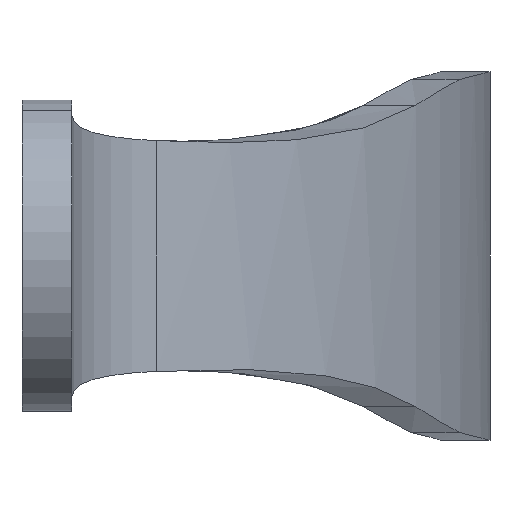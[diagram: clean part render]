
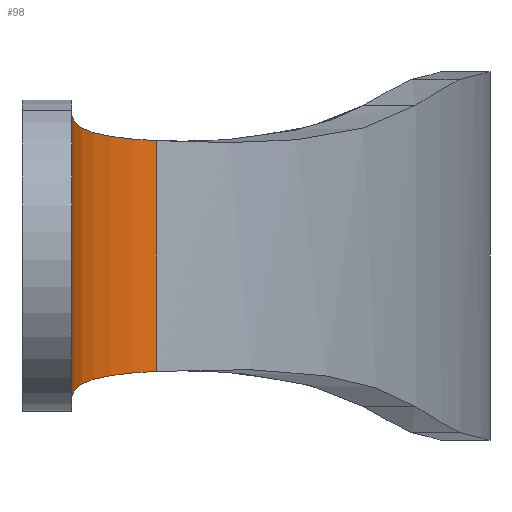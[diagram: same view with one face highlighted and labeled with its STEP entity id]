
A CAD part, left-side view. The second image highlights one B-rep face of the part: STEP entity #98.
In plain terms, the highlighted cylindrical face has radius 15 mm (diameter 30 mm), a partial arc.
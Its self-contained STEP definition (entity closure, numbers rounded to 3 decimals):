
#98 = ADVANCED_FACE( '', ( #154 ), #155, .F. );
#154 = FACE_OUTER_BOUND( '', #216, .T. );
#155 = CYLINDRICAL_SURFACE( '', #217, 15. );
#216 = EDGE_LOOP( '', ( #429, #430, #431, #432 ) );
#217 = AXIS2_PLACEMENT_3D( '', #433, #434, #435 );
#429 = ORIENTED_EDGE( '', *, *, #551, .T. );
#430 = ORIENTED_EDGE( '', *, *, #559, .F. );
#431 = ORIENTED_EDGE( '', *, *, #535, .T. );
#432 = ORIENTED_EDGE( '', *, *, #560, .T. );
#433 = CARTESIAN_POINT( '', ( 4.929, -18.5, 13. ) );
#434 = DIRECTION( '', ( 0., 0., 1. ) );
#435 = DIRECTION( '', ( 0., 1., 0. ) );
#535 = EDGE_CURVE( '', #650, #660, #662, .T. );
#551 = EDGE_CURVE( '', #687, #685, #688, .T. );
#559 = EDGE_CURVE( '', #650, #685, #698, .T. );
#560 = EDGE_CURVE( '', #660, #687, #699, .T. );
#650 = VERTEX_POINT( '', #972 );
#660 = VERTEX_POINT( '', #1034 );
#662 = B_SPLINE_CURVE_WITH_KNOTS( '', 3, ( #1036, #1037, #1038, #1039, #1040, #1041, #1042, #1043, #1044, #1045, #1046, #1047, #1048, #1049, #1050, #1051, #1052, #1053 ), .UNSPECIFIED., .F., .F., ( 4, 2, 2, 2, 2, 2, 2, 2, 4 ), ( 38.078, 39.347, 41.12, 42.893, 44.708, 46.524, 48.34, 50.155, 51.743 ), .UNSPECIFIED. );
#685 = VERTEX_POINT( '', #1174 );
#687 = VERTEX_POINT( '', #1193 );
#688 = B_SPLINE_CURVE_WITH_KNOTS( '', 3, ( #1194, #1195, #1196, #1197, #1198, #1199, #1200, #1201, #1202, #1203, #1204, #1205, #1206, #1207, #1208, #1209, #1210, #1211 ), .UNSPECIFIED., .F., .F., ( 4, 2, 2, 2, 2, 2, 2, 2, 4 ), ( 5.675, 7.262, 9.078, 10.894, 12.709, 14.525, 16.298, 18.071, 19.34 ), .UNSPECIFIED. );
#698 = LINE( '', #1258, #1259 );
#699 = LINE( '', #1260, #1261 );
#972 = CARTESIAN_POINT( '', ( 16.92, -9.488, 8.135 ) );
#1034 = CARTESIAN_POINT( '', ( 4.929, -3.5, 10.007 ) );
#1036 = CARTESIAN_POINT( '', ( 16.92, -9.488, 8.135 ) );
#1037 = CARTESIAN_POINT( '', ( 16.656, -9.138, 8.151 ) );
#1038 = CARTESIAN_POINT( '', ( 16.378, -8.799, 8.171 ) );
#1039 = CARTESIAN_POINT( '', ( 15.679, -8.021, 8.224 ) );
#1040 = CARTESIAN_POINT( '', ( 15.246, -7.595, 8.261 ) );
#1041 = CARTESIAN_POINT( '', ( 14.34, -6.805, 8.348 ) );
#1042 = CARTESIAN_POINT( '', ( 13.868, -6.44, 8.398 ) );
#1043 = CARTESIAN_POINT( '', ( 12.884, -5.769, 8.514 ) );
#1044 = CARTESIAN_POINT( '', ( 12.361, -5.456, 8.581 ) );
#1045 = CARTESIAN_POINT( '', ( 11.274, -4.894, 8.735 ) );
#1046 = CARTESIAN_POINT( '', ( 10.71, -4.645, 8.822 ) );
#1047 = CARTESIAN_POINT( '', ( 9.553, -4.217, 9.016 ) );
#1048 = CARTESIAN_POINT( '', ( 8.96, -4.039, 9.123 ) );
#1049 = CARTESIAN_POINT( '', ( 7.757, -3.756, 9.359 ) );
#1050 = CARTESIAN_POINT( '', ( 7.148, -3.652, 9.487 ) );
#1051 = CARTESIAN_POINT( '', ( 6.001, -3.529, 9.745 ) );
#1052 = CARTESIAN_POINT( '', ( 5.464, -3.5, 9.872 ) );
#1053 = CARTESIAN_POINT( '', ( 4.929, -3.5, 10.007 ) );
#1174 = CARTESIAN_POINT( '', ( 16.92, -9.488, -8.135 ) );
#1193 = CARTESIAN_POINT( '', ( 4.929, -3.5, -10.007 ) );
#1194 = CARTESIAN_POINT( '', ( 4.929, -3.5, -10.007 ) );
#1195 = CARTESIAN_POINT( '', ( 5.464, -3.5, -9.872 ) );
#1196 = CARTESIAN_POINT( '', ( 6.001, -3.529, -9.745 ) );
#1197 = CARTESIAN_POINT( '', ( 7.148, -3.652, -9.487 ) );
#1198 = CARTESIAN_POINT( '', ( 7.757, -3.756, -9.359 ) );
#1199 = CARTESIAN_POINT( '', ( 8.96, -4.039, -9.123 ) );
#1200 = CARTESIAN_POINT( '', ( 9.553, -4.217, -9.016 ) );
#1201 = CARTESIAN_POINT( '', ( 10.71, -4.645, -8.822 ) );
#1202 = CARTESIAN_POINT( '', ( 11.274, -4.894, -8.735 ) );
#1203 = CARTESIAN_POINT( '', ( 12.361, -5.456, -8.581 ) );
#1204 = CARTESIAN_POINT( '', ( 12.884, -5.769, -8.514 ) );
#1205 = CARTESIAN_POINT( '', ( 13.868, -6.44, -8.398 ) );
#1206 = CARTESIAN_POINT( '', ( 14.34, -6.805, -8.348 ) );
#1207 = CARTESIAN_POINT( '', ( 15.246, -7.595, -8.261 ) );
#1208 = CARTESIAN_POINT( '', ( 15.679, -8.021, -8.224 ) );
#1209 = CARTESIAN_POINT( '', ( 16.378, -8.799, -8.171 ) );
#1210 = CARTESIAN_POINT( '', ( 16.656, -9.138, -8.151 ) );
#1211 = CARTESIAN_POINT( '', ( 16.92, -9.488, -8.135 ) );
#1258 = CARTESIAN_POINT( '', ( 16.92, -9.488, 13. ) );
#1259 = VECTOR( '', #1363, 1. );
#1260 = CARTESIAN_POINT( '', ( 4.929, -3.5, 13. ) );
#1261 = VECTOR( '', #1364, 1. );
#1363 = DIRECTION( '', ( 0., 0., -1. ) );
#1364 = DIRECTION( '', ( 0., 0., -1. ) );
